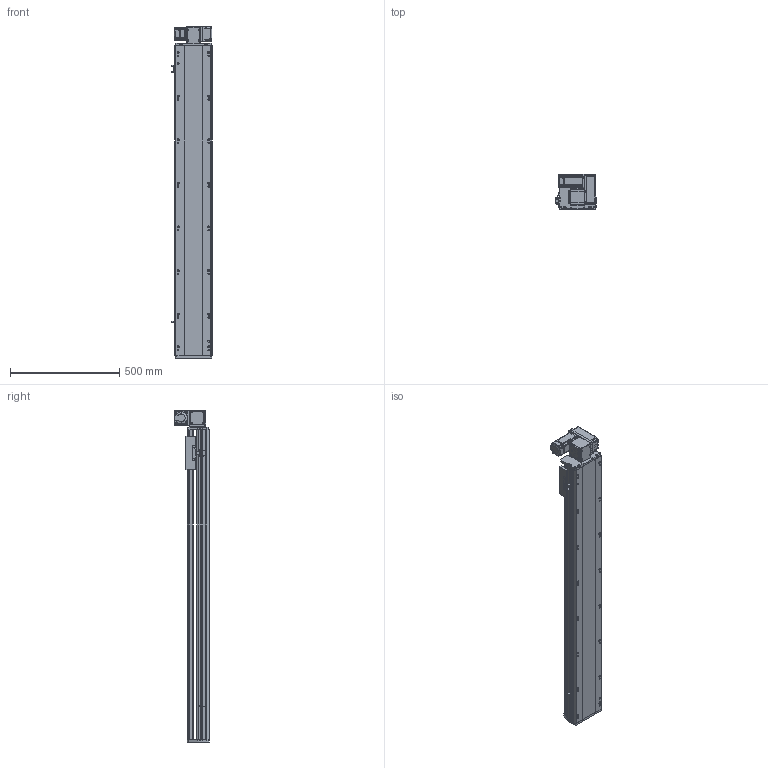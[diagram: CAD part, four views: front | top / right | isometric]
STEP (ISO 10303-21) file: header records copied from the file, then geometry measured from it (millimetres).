
FILE_DESCRIPTION (( 'STEP AP214' ), '1' );
FILE_NAME ('RTB17S-XX-1150-RW-M40-C4.STEP', '2025-12-11T09:00:29', ( '' ), ( '' ), 'SwSTEP 2.0', 'SolidWorks 2018', '' );
FILE_SCHEMA (( 'AUTOMOTIVE_DESIGN' ));
Length unit declared in the file: millimetre
Products named in the file (14): RTB17S-L-001耜醱啣^RTB17S-XX-XX-RW-M40-C4; RTB14-L-005P--轴承塑胶压盖^RTB17S-RW-皮带座装配-400W_RTB17S-XX-XX-RW-M40-C4; OMRON EE-SX672 传感器^RTB17S-XX-XX-RW-M40-C4; RMP17S-L-014-T20--々湍釱^RTB17S-RW-々湍釱蚾饜-400W_RTB17S-XX-XX-RW-M40-C4; RTB14-L-017P^RTB17S-RW-々湍釱蚾饜-400W_RTB17S-XX-XX-RW-M40-C4; RTB17S-RW-々湍釱蚾饜-400W^RTB17S-XX-XX-RW-M40-C4; RTB14-L-018P^RTB17S-RW-々湍釱蚾饜-400W_RTB17S-XX-XX-RW-M40-C4; RTH13-BL-012覜茼え俋离^RTB17S-XX-XX-RW-M40-C4; RTB17S-L-007奻裔^RTB17S-XX-XX-RW-M40-C4; RTB17S-L-004佪裝蹟譫蟀諉釱^RTB17S-XX-XX-RW-M40-C4; RTB17S-XX-1150-RW-M40-C4; 400W侜督萇儂^RTB17S-XX-XX-RW-M40-C4; RTB17-R-011菁釱^RTB17S-XX-XX-RW-M40-C4; RTB14-L-008-M20--萇儂啣^RTB17S-RW-々湍釱蚾饜-400W_RTB17S-XX-XX-RW-M40-C4
Assembly tree (16 placements, depth 3):
  RTB17S-XX-1150-RW-M40-C4
    RTB17-R-011菁釱^RTB17S-XX-XX-RW-M40-C4
    RTB17S-L-007奻裔^RTB17S-XX-XX-RW-M40-C4
    OMRON EE-SX672 传感器^RTB17S-XX-XX-RW-M40-C4  x3
    RTB17S-L-001耜醱啣^RTB17S-XX-XX-RW-M40-C4
    400W侜督萇儂^RTB17S-XX-XX-RW-M40-C4
    RTB17S-L-004佪裝蹟譫蟀諉釱^RTB17S-XX-XX-RW-M40-C4
    RTH13-BL-012覜茼え俋离^RTB17S-XX-XX-RW-M40-C4
    RTB17S-RW-々湍釱蚾饜-400W^RTB17S-XX-XX-RW-M40-C4
      RMP17S-L-014-T20--々湍釱^RTB17S-RW-々湍釱蚾饜-400W_RTB17S-XX-XX-RW-M40-C4
      RTB14-L-005P--轴承塑胶压盖^RTB17S-RW-皮带座装配-400W_RTB17S-XX-XX-RW-M40-C4
      RTB14-L-008-M20--萇儂啣^RTB17S-RW-々湍釱蚾饜-400W_RTB17S-XX-XX-RW-M40-C4
      RTB14-L-017P^RTB17S-RW-々湍釱蚾饜-400W_RTB17S-XX-XX-RW-M40-C4  x2
      RTB14-L-018P^RTB17S-RW-々湍釱蚾饜-400W_RTB17S-XX-XX-RW-M40-C4
Bounding box: 183.5 x 160.5 x 1522.5 mm (x, y, z)
Volume: 13597602.2 mm3; surface area: 1631458.5 mm2
Topology: 15 solids, 15 shells, 2221 faces, 6141 edges, 4005 vertices
Faces by surface type: plane 1070, cylinder 703, bspline 301, cone 139, torus 8
Entity records: 63401 total; most frequent: CARTESIAN_POINT 17746, ORIENTED_EDGE 9126, DIRECTION 8486, EDGE_CURVE 4563, VERTEX_POINT 2993, AXIS2_PLACEMENT_3D 2923, LINE 2640, VECTOR 2640
